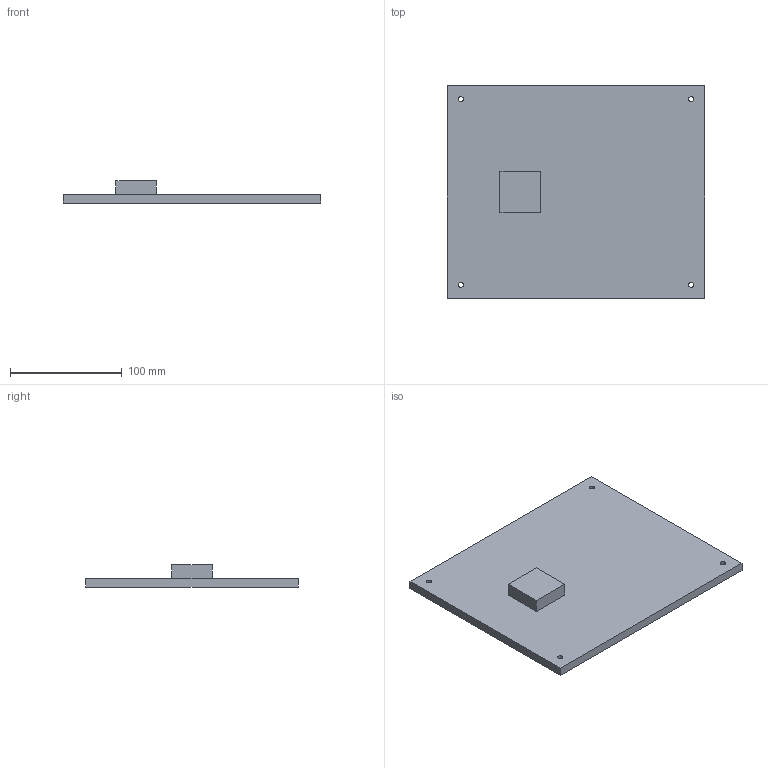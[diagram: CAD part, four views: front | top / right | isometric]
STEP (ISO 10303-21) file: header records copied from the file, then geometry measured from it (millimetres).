
FILE_DESCRIPTION(('Open CASCADE Model'),'2;1');
FILE_NAME('Open CASCADE Shape Model','2026-09-10T23:36:48',('Author'),( 'Open CASCADE'),'Open CASCADE STEP processor 7.9','Open CASCADE 7.9' ,'Unknown');
FILE_SCHEMA(('AUTOMOTIVE_DESIGN { 1 0 10303 214 1 1 1 1 }'));
Length unit declared in the file: millimetre
Products named in the file (1): Open CASCADE STEP translator 7.9 1
Bounding box: 230 x 190 x 20 mm (x, y, z)
Volume: 364643.1 mm3; surface area: 96173.2 mm2
Topology: 1 solids, 1 shells, 15 faces, 36 edges, 24 vertices
Faces by surface type: plane 11, cylinder 4
Full cylindrical faces by diameter (mm): 4.5 x4
Entity records: 956 total; most frequent: CARTESIAN_POINT 196, DIRECTION 140, LINE 92, VECTOR 92, ORIENTED_EDGE 72, PCURVE 72, DEFINITIONAL_REPRESENTATION 72, EDGE_CURVE 36
